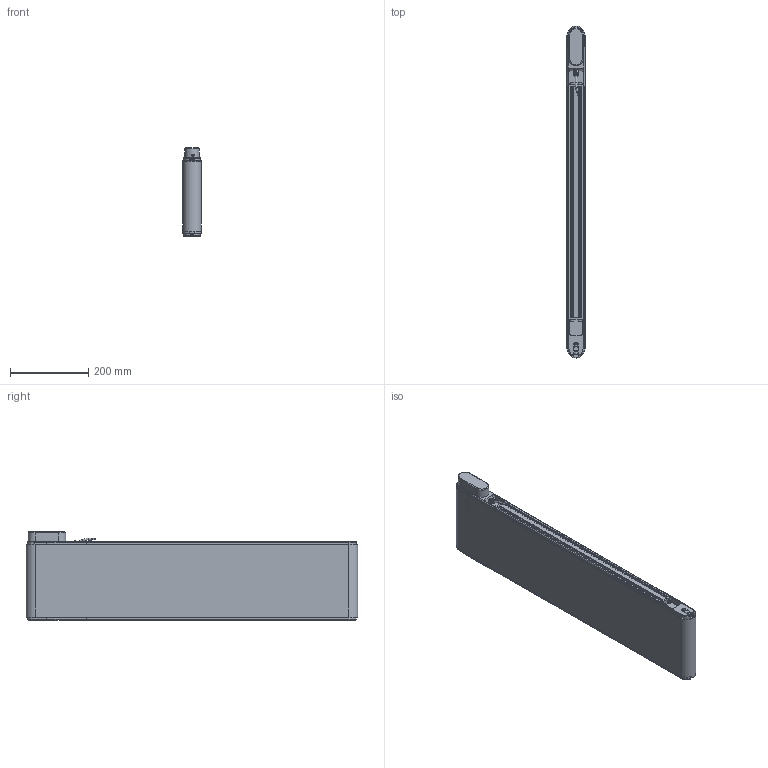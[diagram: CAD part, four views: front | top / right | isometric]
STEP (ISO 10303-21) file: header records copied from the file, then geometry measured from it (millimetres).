
FILE_DESCRIPTION(/* description */ (''),/* implementation_level */ '2;1');
FILE_NAME(/* name */ 'G:\DATEN\CAD\Förderband\Marketing\3D-Modelle (Standard)\FR-40-200-Q\FR-40-200-Q-800-K.stp',/* time_stamp */ '2019-05-09T09:50:13+02:00',/* author */ ('melanie.ochs'),/* organization */ (''),/* preprocessor_version */ 'ST-DEVELOPER v17',/* originating_system */ 'Autodesk Inventor 2019',/* authorisation */ '');
FILE_SCHEMA (('CONFIG_CONTROL_DESIGN','AP203_CONFIGURATION_CONTROLLED_3D_DESIGN_OF_MECHANICAL_PARTS_AND_ASSEMBLIES_MIM_LF { 1 0 10303 203 3 1 4 }'));
Length unit declared in the file: centimetre
Products named in the file (1): FR-40-200-Q-800-K
Bounding box: 46.6 x 846.6 x 224.5 mm (x, y, z)
Volume: 2944452.1 mm3; surface area: 1069858.4 mm2
Topology: 6 solids, 25 shells, 930 faces, 2526 edges, 1685 vertices
Faces by surface type: plane 475, cylinder 293, cone 72, bspline 61, torus 29
Full cylindrical faces by diameter (mm): 1 x6, 3 x1, 4 x12, 4.3 x4, 4.917 x3, 5 x11, 5.5 x8, 6 x4, 6.5 x1, 6.773 x1, 6.917 x3, 8 x4, 8.3 x6, 8.5 x8, 8.773 x1, 10 x2, 11 x1, 12 x6, 25 x2, 28 x2, 28.01 x2, 30 x1
Entity records: 31338 total; most frequent: CARTESIAN_POINT 6877, ORIENTED_EDGE 5008, DIRECTION 4817, EDGE_CURVE 2504, AXIS2_PLACEMENT_3D 1734, VERTEX_POINT 1684, LINE 1349, VECTOR 1349
